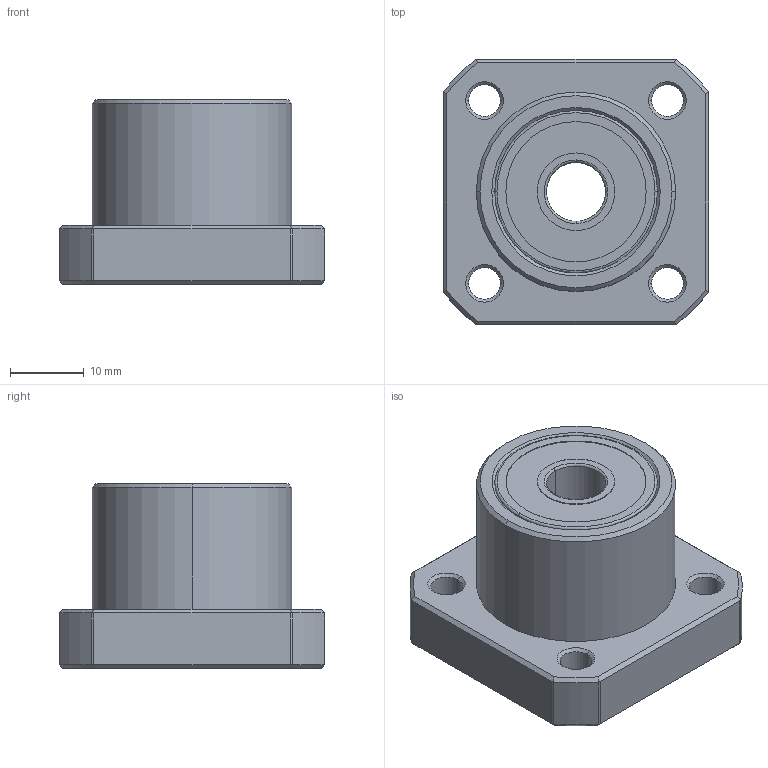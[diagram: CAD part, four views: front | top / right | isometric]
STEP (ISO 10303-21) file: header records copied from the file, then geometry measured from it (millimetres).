
FILE_DESCRIPTION (( 'STEP AP203' ), '1' );
FILE_NAME ('SBD08.STEP', '2009-05-27T07:00:12', ( '冠犁泅' ), ( '俺惯何' ), 'SwSTEP 2.0', 'SolidWorks 2007', '' );
FILE_SCHEMA (( 'CONFIG_CONTROL_DESIGN' ));
Length unit declared in the file: millimetre
Products named in the file (3): SBD08; SBD08_HOUSING_ル遽; 608zz_ル遽
Assembly tree (3 placements, depth 2):
  SBD08
    SBD08_HOUSING_ル遽
    608zz_ル遽  x2
Bounding box: 36 x 36 x 25 mm (x, y, z)
Volume: 10516 mm3; surface area: 12448.7 mm2
Topology: 1 solids, 21 shells, 227 faces, 574 edges, 336 vertices
Faces by surface type: cylinder 84, bspline 60, plane 49, cone 34
Entity records: 6256 total; most frequent: CARTESIAN_POINT 2393, DIRECTION 770, ORIENTED_EDGE 704, EDGE_CURVE 362, AXIS2_PLACEMENT_3D 322, VERTEX_POINT 236, EDGE_LOOP 188, CIRCLE 186
